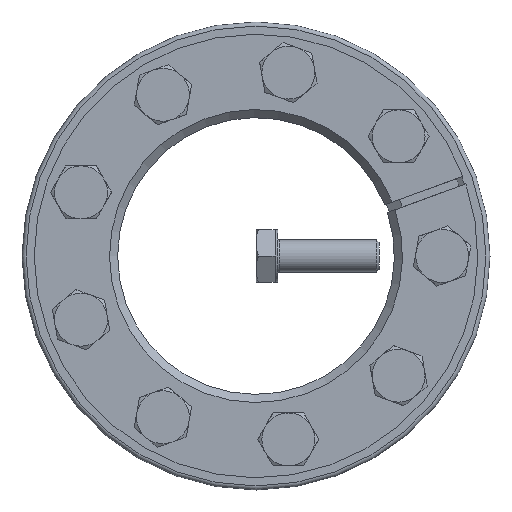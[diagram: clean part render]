
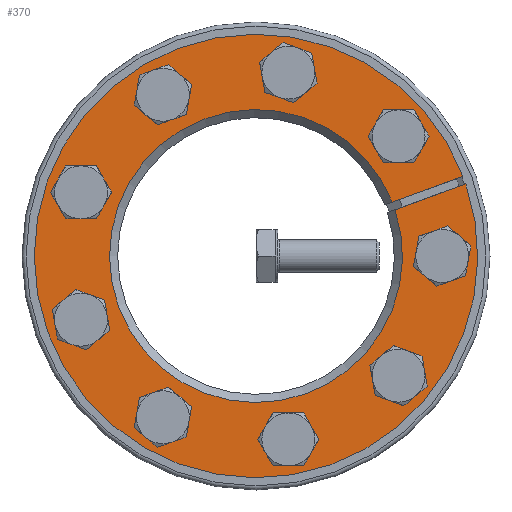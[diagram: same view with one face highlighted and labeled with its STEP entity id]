
A CAD part, front view. The second image highlights one B-rep face of the part: STEP entity #370.
In plain terms, the highlighted planar face has unit normal (0, -1, 0).
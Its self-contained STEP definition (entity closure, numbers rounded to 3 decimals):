
#370 = ADVANCED_FACE( '', ( #589, #590, #591, #592, #593, #594, #595, #596, #597, #598 ), #599, .F. );
#589 = FACE_BOUND( '', #740, .T. );
#590 = FACE_BOUND( '', #741, .T. );
#591 = FACE_BOUND( '', #742, .T. );
#592 = FACE_BOUND( '', #743, .T. );
#593 = FACE_BOUND( '', #744, .T. );
#594 = FACE_BOUND( '', #745, .T. );
#595 = FACE_BOUND( '', #746, .T. );
#596 = FACE_BOUND( '', #747, .T. );
#597 = FACE_BOUND( '', #748, .T. );
#598 = FACE_OUTER_BOUND( '', #749, .T. );
#599 = PLANE( '', #750 );
#740 = EDGE_LOOP( '', ( #920 ) );
#741 = EDGE_LOOP( '', ( #921 ) );
#742 = EDGE_LOOP( '', ( #922 ) );
#743 = EDGE_LOOP( '', ( #923 ) );
#744 = EDGE_LOOP( '', ( #924 ) );
#745 = EDGE_LOOP( '', ( #925 ) );
#746 = EDGE_LOOP( '', ( #926 ) );
#747 = EDGE_LOOP( '', ( #927 ) );
#748 = EDGE_LOOP( '', ( #928 ) );
#749 = EDGE_LOOP( '', ( #929, #930, #931, #932 ) );
#750 = AXIS2_PLACEMENT_3D( '', #933, #934, #935 );
#920 = ORIENTED_EDGE( '', *, *, #1255, .T. );
#921 = ORIENTED_EDGE( '', *, *, #1256, .T. );
#922 = ORIENTED_EDGE( '', *, *, #1257, .T. );
#923 = ORIENTED_EDGE( '', *, *, #1258, .T. );
#924 = ORIENTED_EDGE( '', *, *, #1259, .T. );
#925 = ORIENTED_EDGE( '', *, *, #1260, .T. );
#926 = ORIENTED_EDGE( '', *, *, #1261, .T. );
#927 = ORIENTED_EDGE( '', *, *, #1262, .T. );
#928 = ORIENTED_EDGE( '', *, *, #1263, .T. );
#929 = ORIENTED_EDGE( '', *, *, #1264, .T. );
#930 = ORIENTED_EDGE( '', *, *, #1265, .T. );
#931 = ORIENTED_EDGE( '', *, *, #1266, .F. );
#932 = ORIENTED_EDGE( '', *, *, #1267, .T. );
#933 = CARTESIAN_POINT( '', ( 0., 0., 57.5 ) );
#934 = DIRECTION( '', ( 0., 1., 0. ) );
#935 = DIRECTION( '', ( 0., 0., 1. ) );
#1255 = EDGE_CURVE( '', #1378, #1378, #1379, .T. );
#1256 = EDGE_CURVE( '', #1380, #1380, #1381, .T. );
#1257 = EDGE_CURVE( '', #1382, #1382, #1383, .T. );
#1258 = EDGE_CURVE( '', #1384, #1384, #1385, .T. );
#1259 = EDGE_CURVE( '', #1386, #1386, #1387, .T. );
#1260 = EDGE_CURVE( '', #1388, #1388, #1389, .T. );
#1261 = EDGE_CURVE( '', #1390, #1390, #1391, .T. );
#1262 = EDGE_CURVE( '', #1392, #1392, #1393, .T. );
#1263 = EDGE_CURVE( '', #1394, #1394, #1395, .T. );
#1264 = EDGE_CURVE( '', #1396, #1397, #1398, .T. );
#1265 = EDGE_CURVE( '', #1397, #1399, #1400, .T. );
#1266 = EDGE_CURVE( '', #1401, #1399, #1402, .T. );
#1267 = EDGE_CURVE( '', #1401, #1396, #1403, .T. );
#1378 = VERTEX_POINT( '', #1475 );
#1379 = CIRCLE( '', #1476, 4. );
#1380 = VERTEX_POINT( '', #1477 );
#1381 = CIRCLE( '', #1478, 4. );
#1382 = VERTEX_POINT( '', #1479 );
#1383 = CIRCLE( '', #1480, 4. );
#1384 = VERTEX_POINT( '', #1481 );
#1385 = CIRCLE( '', #1482, 4. );
#1386 = VERTEX_POINT( '', #1483 );
#1387 = CIRCLE( '', #1484, 4. );
#1388 = VERTEX_POINT( '', #1485 );
#1389 = CIRCLE( '', #1486, 4. );
#1390 = VERTEX_POINT( '', #1487 );
#1391 = CIRCLE( '', #1488, 4. );
#1392 = VERTEX_POINT( '', #1489 );
#1393 = CIRCLE( '', #1490, 4. );
#1394 = VERTEX_POINT( '', #1491 );
#1395 = CIRCLE( '', #1492, 4. );
#1396 = VERTEX_POINT( '', #1493 );
#1397 = VERTEX_POINT( '', #1494 );
#1398 = LINE( '', #1495, #1496 );
#1399 = VERTEX_POINT( '', #1497 );
#1400 = CIRCLE( '', #1498, 36. );
#1401 = VERTEX_POINT( '', #1499 );
#1402 = LINE( '', #1500, #1501 );
#1403 = CIRCLE( '', #1502, 54.5 );
#1475 = CARTESIAN_POINT( '', ( 32.475, 0., -32.472 ) );
#1476 = AXIS2_PLACEMENT_3D( '', #1610, #1611, #1612 );
#1477 = CARTESIAN_POINT( '', ( -26.339, 0., -37.621 ) );
#1478 = AXIS2_PLACEMENT_3D( '', #1613, #1614, #1615 );
#1479 = CARTESIAN_POINT( '', ( -41.623, 0., 19.406 ) );
#1480 = AXIS2_PLACEMENT_3D( '', #1616, #1617, #1618 );
#1481 = CARTESIAN_POINT( '', ( 11.884, 0., 44.36 ) );
#1482 = AXIS2_PLACEMENT_3D( '', #1619, #1620, #1621 );
#1483 = CARTESIAN_POINT( '', ( 45.75, 0., -4. ) );
#1484 = AXIS2_PLACEMENT_3D( '', #1622, #1623, #1624 );
#1485 = CARTESIAN_POINT( '', ( 37.618, 0., 26.343 ) );
#1486 = AXIS2_PLACEMENT_3D( '', #1625, #1626, #1627 );
#1487 = CARTESIAN_POINT( '', ( -19.411, 0., 41.621 ) );
#1488 = AXIS2_PLACEMENT_3D( '', #1628, #1629, #1630 );
#1489 = CARTESIAN_POINT( '', ( -44.359, 0., -11.889 ) );
#1490 = AXIS2_PLACEMENT_3D( '', #1631, #1632, #1633 );
#1491 = CARTESIAN_POINT( '', ( 4.005, 0., -45.75 ) );
#1492 = AXIS2_PLACEMENT_3D( '', #1634, #1635, #1636 );
#1493 = CARTESIAN_POINT( '', ( 51.547, 0., 17.697 ) );
#1494 = CARTESIAN_POINT( '', ( 34.158, 0., 11.368 ) );
#1495 = CARTESIAN_POINT( '', ( 51.555, 0., 17.7 ) );
#1496 = VECTOR( '', #1637, 1000. );
#1497 = CARTESIAN_POINT( '', ( 33.474, 0., 13.248 ) );
#1498 = AXIS2_PLACEMENT_3D( '', #1638, #1639, #1640 );
#1499 = CARTESIAN_POINT( '', ( 50.863, 0., 19.577 ) );
#1500 = CARTESIAN_POINT( '', ( 50.871, 0., 19.58 ) );
#1501 = VECTOR( '', #1641, 1000. );
#1502 = AXIS2_PLACEMENT_3D( '', #1642, #1643, #1644 );
#1610 = CARTESIAN_POINT( '', ( 35.047, 0., -29.408 ) );
#1611 = DIRECTION( '', ( 0., 1., 0. ) );
#1612 = DIRECTION( '', ( -0.643, 0., -0.766 ) );
#1613 = CARTESIAN_POINT( '', ( -22.875, 0., -39.621 ) );
#1614 = DIRECTION( '', ( 0., 1., 0. ) );
#1615 = DIRECTION( '', ( -0.866, 0., 0.5 ) );
#1616 = CARTESIAN_POINT( '', ( -42.991, 0., 15.647 ) );
#1617 = DIRECTION( '', ( 0., 1., 0. ) );
#1618 = DIRECTION( '', ( 0.342, 0., 0.94 ) );
#1619 = CARTESIAN_POINT( '', ( 7.944, 0., 45.055 ) );
#1620 = DIRECTION( '', ( 0., 1., 0. ) );
#1621 = DIRECTION( '', ( 0.985, 0., -0.174 ) );
#1622 = CARTESIAN_POINT( '', ( 45.75, 0., 0. ) );
#1623 = DIRECTION( '', ( 0., 1., 0. ) );
#1624 = DIRECTION( '', ( 0., 0., -1. ) );
#1625 = CARTESIAN_POINT( '', ( 35.047, 0., 29.408 ) );
#1626 = DIRECTION( '', ( 0., 1., 0. ) );
#1627 = DIRECTION( '', ( 0.643, 0., -0.766 ) );
#1628 = CARTESIAN_POINT( '', ( -22.875, 0., 39.621 ) );
#1629 = DIRECTION( '', ( 0., 1., 0. ) );
#1630 = DIRECTION( '', ( 0.866, 0., 0.5 ) );
#1631 = CARTESIAN_POINT( '', ( -42.991, 0., -15.647 ) );
#1632 = DIRECTION( '', ( 0., 1., 0. ) );
#1633 = DIRECTION( '', ( -0.342, 0., 0.94 ) );
#1634 = CARTESIAN_POINT( '', ( 7.944, 0., -45.055 ) );
#1635 = DIRECTION( '', ( 0., 1., 0. ) );
#1636 = DIRECTION( '', ( -0.985, 0., -0.174 ) );
#1637 = DIRECTION( '', ( -0.94, 0., -0.342 ) );
#1638 = CARTESIAN_POINT( '', ( 0., 0., 0. ) );
#1639 = DIRECTION( '', ( 0., 1., 0. ) );
#1640 = DIRECTION( '', ( 0., 0., 1. ) );
#1641 = DIRECTION( '', ( -0.94, 0., -0.342 ) );
#1642 = CARTESIAN_POINT( '', ( 0., 0., 0. ) );
#1643 = DIRECTION( '', ( 0., -1., 0. ) );
#1644 = DIRECTION( '', ( 0., 0., -1. ) );
